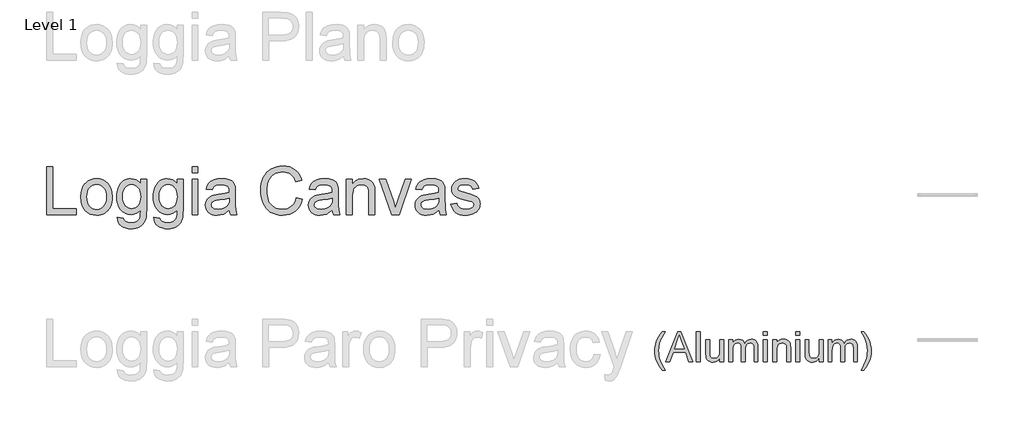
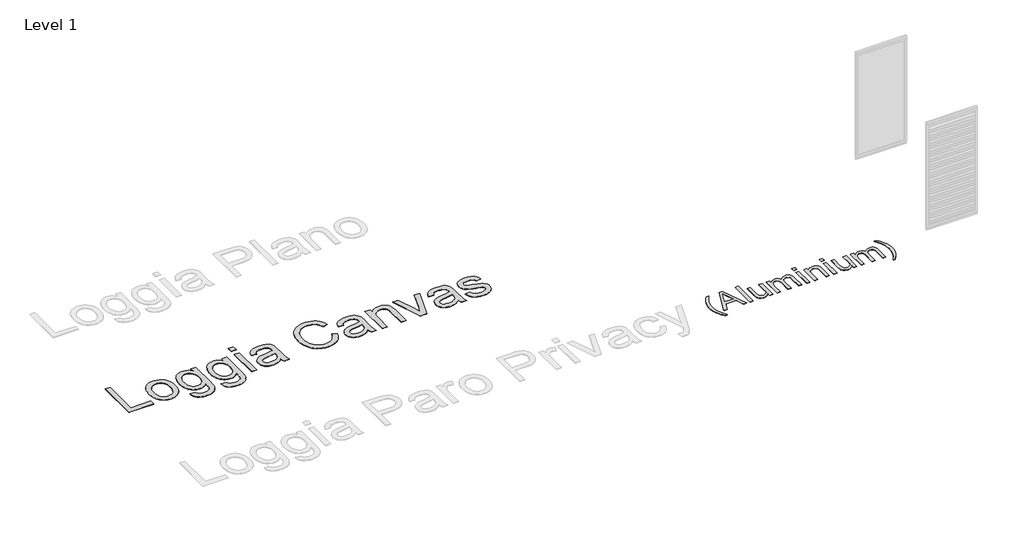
# One storey, part 30 of 69: 2 proxies.
"""IFC4 building model written with IfcOpenShell, lengths in millimetres."""

from ifc_helpers import new_model, si_unit, origin, origin_with_axes, place, context, project, spatial, polyline, outline, extrude, element, save

model = new_model("IFC4")

# Units and contexts
model_context = context("Model", 3, world=origin())
ifc_project = project(units=[si_unit("LENGTHUNIT", "METRE", prefix="MILLI")], contexts=[model_context])

# Site, building, storey
site = spatial("IfcSite", under=ifc_project)
building = spatial("IfcBuilding", under=site)
storey = spatial("IfcBuildingStorey", under=building, Name="Level 1", Elevation=0.0)

# Proxies
placement = place(None, origin())
element("IfcBuildingElementProxy", 1, Name="500mm Arial", ObjectType="500mm Arial", at=placement, inside=storey, context=model_context, shape_type="SweptSolid", body=[
    extrude(outline(polyline([(204273.402934, -24410.2759142), (204248.0573974, -24377.4807672), (204224.7505402, -24342.0031472), (204184.2528639, -24263.0004888), (204168.318975, -24220.4334763), (204156.9376257, -24177.1000429), (204150.1088162, -24133.0001887), (204147.8325464, -24088.1339137), (204149.5340006, -24048.7015624), (204154.6383633, -24010.1122739), (204163.1456344, -23972.3660484), (204175.055814, -23935.4628857), (204193.1586738, -23893.1411279), (204215.5841471, -23850.9113405), (204242.3322339, -23808.7735237), (204273.402934, -23766.7276773), (204320.4918294, -23766.7276773), (204261.7533375, -23866.1784433), (204241.7037688, -23913.389966), (204226.436666, -23962.5635261), (204214.5724717, -24025.3793767), (204210.6177402, -24088.5017957), (204212.3345228, -24128.7503853), (204217.4848708, -24168.9913106), (204226.068784, -24209.2245717), (204238.0862625, -24249.4501686), (204272.4219154, -24329.8783698), (204320.4918294, -24410.2759142), (204273.402934, -24410.2759142)])), origin_with_axes(), (0.0, 0.0, 1.0), 5.0),
    extrude(outline(polyline([(204332.6319353, -24269.009228), (204533.1276226, -23766.7276773), (204586.5931393, -23766.7276773), (204787.0888266, -24269.009228), (204720.7474402, -24269.009228), (204663.2352216, -24112.0462434), (204456.362913, -24112.0462434), (204398.9733217, -24269.009228), (204332.6319353, -24269.009228)]), holes=[polyline([(204479.4168513, -24049.2610496), (204640.3039106, -24049.2610496), (204595.0544252, -23925.7753265), (204559.860381, -23829.5128711), (204528.5904114, -23914.9841213), (204479.4168513, -24049.2610496)])]), origin_with_axes(), (0.0, 0.0, 1.0), 5.0),
    extrude(outline(polyline([(204846.3178279, -24269.009228), (204846.3178279, -23766.7276773), (204909.1030217, -23766.7276773), (204909.1030217, -24269.009228), (204846.3178279, -24269.009228)])), origin_with_axes(), (0.0, 0.0, 1.0), 5.0),
    extrude(outline(polyline([(205238.7252894, -24269.009228), (205238.7252894, -24205.6108975), (205216.0085762, -24236.7812324), (205189.5517294, -24259.0457573), (205159.3547489, -24272.4044723), (205125.4176349, -24276.8573773), (205094.837444, -24273.7303803), (205066.3725747, -24264.3493894), (205042.4909018, -24250.2472463), (205025.6603005, -24232.9567925), (205014.3326008, -24211.956862), (205006.9596324, -24186.7262885), (205003.2808125, -24128.3556786), (205003.2808125, -23900.1462142), (205066.0660063, -23900.1462142), (205066.0660063, -24098.8024916), (205069.8674536, -24162.8139588), (205079.0185182, -24184.1664429), (205094.6994883, -24200.3992359), (205115.8680314, -24210.6539466), (205141.4818153, -24214.0721834), (205168.5671272, -24210.5773045), (205193.9049996, -24200.0926676), (205214.7976313, -24183.5839631), (205228.5472209, -24162.0168811), (205236.1807723, -24132.4790226), (205238.7252894, -24092.0579884), (205238.7252894, -23900.1462142), (205301.5104832, -23900.1462142), (205301.5104832, -24269.009228), (205238.7252894, -24269.009228)])), origin_with_axes(), (0.0, 0.0, 1.0), 5.0),
    extrude(outline(polyline([(205387.8401248, -24269.009228), (205387.8401248, -23900.1462142), (205450.6253186, -23900.1462142), (205450.6253186, -23960.8467434), (205469.5099277, -23932.9643539), (205493.7901394, -23911.1213604), (205522.6382192, -23897.0038888), (205555.2264326, -23892.298065), (205590.1445653, -23897.0958593), (205618.1342538, -23911.4892424), (205639.0422138, -23934.5278523), (205652.7151613, -23965.2613274), (205675.6004871, -23933.3399001), (205701.7047803, -23910.5388806), (205731.028041, -23896.8582689), (205763.5702692, -23892.298065), (205788.7050401, -23894.1949565), (205810.7664635, -23899.8856311), (205829.7545394, -23909.3700888), (205845.6692678, -23922.6483296), (205858.2500656, -23939.8736376), (205867.2363497, -23961.199297), (205872.6281202, -23986.6253078), (205874.4253771, -24016.15167), (205874.4253771, -24269.009228), (205811.6401832, -24269.009228), (205811.6401832, -24043.129683), (205810.1839836, -24011.8137282), (205805.815385, -23990.7064987), (205797.6300106, -23976.251802), (205784.7234839, -23964.8934454), (205768.1228089, -23957.5358055), (205748.8549894, -23955.0832588), (205731.06253, -23956.6544215), (205714.8412332, -23961.3679096), (205700.1910992, -23969.223723), (205687.1121278, -23980.2218618), (205676.3554116, -23994.6842228), (205668.6720428, -24012.9327026), (205664.0620216, -24034.9673012), (205662.5253478, -24060.7880188), (205662.5253478, -24269.009228), (205599.740154, -24269.009228), (205599.740154, -24036.1399251), (205596.1073193, -24000.6393126), (205585.2088152, -23975.3167686), (205576.7820182, -23966.464608), (205566.0329662, -23960.1416363), (205537.5680968, -23955.0832588), (205513.3798556, -23958.4555104), (205491.0923381, -23968.5722653), (205472.6982383, -23985.1882688), (205460.1902505, -24008.0582661), (205453.0165516, -24039.7880882), (205450.6253186, -24082.9835658), (205450.6253186, -24269.009228), (205387.8401248, -24269.009228)])), origin_with_axes(), (0.0, 0.0, 1.0), 5.0),
    extrude(outline(polyline([(205968.6031678, -23829.5128711), (205968.6031678, -23766.7276773), (206031.3883617, -23766.7276773), (206031.3883617, -23829.5128711), (205968.6031678, -23829.5128711)])), origin_with_axes(), (0.0, 0.0, 1.0), 5.0),
    extrude(outline(polyline([(205968.6031678, -24269.009228), (205968.6031678, -23900.1462142), (206031.3883617, -23900.1462142), (206031.3883617, -24269.009228), (205968.6031678, -24269.009228)])), origin_with_axes(), (0.0, 0.0, 1.0), 5.0),
    extrude(outline(polyline([(206125.5661524, -24269.009228), (206125.5661524, -23900.1462142), (206188.3513463, -23900.1462142), (206188.3513463, -23951.6496935), (206210.1636829, -23925.683356), (206236.3599466, -23907.1359721), (206266.9401375, -23896.0075418), (206301.9042555, -23892.298065), (206332.8523283, -23895.2871062), (206361.1945703, -23904.2542298), (206384.8309885, -23918.0804615), (206401.6615898, -23935.6468267), (206413.0812601, -23956.9073404), (206420.4848852, -23981.8160171), (206423.7958232, -24042.5165463), (206423.7958232, -24269.009228), (206361.0106293, -24269.009228), (206361.0106293, -24050.9778322), (206359.2018762, -24018.5122462), (206353.7756168, -23995.427651), (206343.7661608, -23978.8882896), (206328.2078181, -23966.058405), (206308.2655483, -23957.8270454), (206285.104311, -23955.0832588), (206266.039593, -23956.6237647), (206248.3314399, -23961.2452822), (206231.9798516, -23968.9478115), (206216.9848282, -23979.7313525), (206204.4576799, -23994.8221785), (206195.5097168, -24015.4465629), (206190.1409389, -24041.6045056), (206188.3513463, -24073.2960066), (206188.3513463, -24269.009228), (206125.5661524, -24269.009228)])), origin_with_axes(), (0.0, 0.0, 1.0), 5.0),
    extrude(outline(polyline([(206510.1254647, -24269.009228), (206510.1254647, -23900.1462142), (206572.9106586, -23900.1462142), (206572.9106586, -24269.009228), (206510.1254647, -24269.009228)])), origin_with_axes(), (0.0, 0.0, 1.0), 5.0),
    extrude(outline(polyline([(206510.1254647, -23829.5128711), (206510.1254647, -23766.7276773), (206572.9106586, -23766.7276773), (206572.9106586, -23829.5128711), (206510.1254647, -23829.5128711)])), origin_with_axes(), (0.0, 0.0, 1.0), 5.0),
    extrude(outline(polyline([(206902.5329262, -24269.009228), (206902.5329262, -24205.6108975), (206879.816213, -24236.7812324), (206853.3593662, -24259.0457573), (206823.1623858, -24272.4044723), (206789.2252717, -24276.8573773), (206758.6450809, -24273.7303803), (206730.1802115, -24264.3493894), (206706.2985387, -24250.2472463), (206689.4679374, -24232.9567925), (206678.1402376, -24211.956862), (206670.7672693, -24186.7262885), (206667.0884493, -24128.3556786), (206667.0884493, -23900.1462142), (206729.8736432, -23900.1462142), (206729.8736432, -24098.8024916), (206733.6750905, -24162.8139588), (206742.8261551, -24184.1664429), (206758.5071251, -24200.3992359), (206779.6756683, -24210.6539466), (206805.2894522, -24214.0721834), (206832.3747641, -24210.5773045), (206857.7126365, -24200.0926676), (206878.6052681, -24183.5839631), (206892.3548577, -24162.0168811), (206899.9884091, -24132.4790226), (206902.5329262, -24092.0579884), (206902.5329262, -23900.1462142), (206965.3181201, -23900.1462142), (206965.3181201, -24269.009228), (206902.5329262, -24269.009228)])), origin_with_axes(), (0.0, 0.0, 1.0), 5.0),
    extrude(outline(polyline([(207051.6477616, -24269.009228), (207051.6477616, -23900.1462142), (207114.4329555, -23900.1462142), (207114.4329555, -23960.8467434), (207133.3175646, -23932.9643539), (207157.5977762, -23911.1213604), (207186.445856, -23897.0038888), (207219.0340694, -23892.298065), (207253.9522021, -23897.0958593), (207281.9418906, -23911.4892424), (207302.8498507, -23934.5278523), (207316.5227982, -23965.2613274), (207339.4081239, -23933.3399001), (207365.5124172, -23910.5388806), (207394.8356779, -23896.8582689), (207427.377906, -23892.298065), (207452.5126769, -23894.1949565), (207474.5741003, -23899.8856311), (207493.5621762, -23909.3700888), (207509.4769046, -23922.6483296), (207522.0577024, -23939.8736376), (207531.0439866, -23961.199297), (207536.4357571, -23986.6253078), (207538.2330139, -24016.15167), (207538.2330139, -24269.009228), (207475.4478201, -24269.009228), (207475.4478201, -24043.129683), (207473.9916205, -24011.8137282), (207469.6230218, -23990.7064987), (207461.4376474, -23976.251802), (207448.5311208, -23964.8934454), (207431.9304457, -23957.5358055), (207412.6626262, -23955.0832588), (207394.8701668, -23956.6544215), (207378.6488701, -23961.3679096), (207363.998736, -23969.223723), (207350.9197647, -23980.2218618), (207340.1630484, -23994.6842228), (207332.4796797, -24012.9327026), (207327.8696584, -24034.9673012), (207326.3329847, -24060.7880188), (207326.3329847, -24269.009228), (207263.5477908, -24269.009228), (207263.5477908, -24036.1399251), (207259.9149561, -24000.6393126), (207249.016452, -23975.3167686), (207240.5896551, -23966.464608), (207229.840603, -23960.1416363), (207201.3757337, -23955.0832588), (207177.1874925, -23958.4555104), (207154.8999749, -23968.5722653), (207136.5058752, -23985.1882688), (207123.9978873, -24008.0582661), (207116.8241884, -24039.7880882), (207114.4329555, -24082.9835658), (207114.4329555, -24269.009228), (207051.6477616, -24269.009228)])), origin_with_axes(), (0.0, 0.0, 1.0), 5.0),
    extrude(outline(polyline([(207648.1071031, -24410.2759142), (207601.0182078, -24410.2759142), (207649.0881218, -24329.8783698), (207683.4237747, -24249.4501686), (207695.4412532, -24209.2245717), (207704.0251664, -24168.9913106), (207709.1755143, -24128.7503853), (207710.892297, -24088.5017957), (207706.9375655, -24025.8392292), (207695.0733712, -23963.667172), (207680.0821799, -23914.4016415), (207660.1245816, -23867.159462), (207601.0182078, -23766.7276773), (207648.1071031, -23766.7276773), (207679.1778033, -23808.7735237), (207705.92589, -23850.9113405), (207728.3513633, -23893.1411279), (207746.4542232, -23935.4628857), (207758.3644028, -23972.3660484), (207766.8716739, -24010.1122739), (207771.9760366, -24048.7015624), (207773.6774908, -24088.1339137), (207771.3897247, -24133.0001887), (207764.5264262, -24177.1000429), (207753.0875954, -24220.4334763), (207737.0732323, -24263.0004888), (207696.5295708, -24342.0031472), (207648.1071031, -24410.2759142)])), origin_with_axes(), (0.0, 0.0, 1.0), 5.0),
])
element("IfcBuildingElementProxy", 2, Name="800mm Arial", ObjectType="800mm Arial", at=placement, inside=storey, context=model_context, shape_type="SweptSolid", body=[
    extrude(outline(polyline([(193965.6331768, -21803.9280072), (193965.6331768, -21004.5393088), (194065.556764, -21004.5393088), (194065.556764, -21704.0044199), (194465.2511132, -21704.0044199), (194465.2511132, -21803.9280072), (193965.6331768, -21803.9280072)])), origin_with_axes(), (0.0, 0.0, 1.0), 5.0),
    extrude(outline(polyline([(194540.1938037, -21510.4024695), (194545.5973864, -21434.3741834), (194552.3518647, -21400.302948), (194561.8081343, -21368.8603178), (194573.9661953, -21340.0462926), (194588.8260477, -21313.8608726), (194606.3876913, -21290.3040576), (194626.6511263, -21269.3758478), (194664.7323567, -21240.9430009), (194706.7656431, -21220.6338245), (194752.7509853, -21208.4483187), (194802.6883836, -21204.3864834), (194857.8159047, -21209.3326522), (194907.6618201, -21224.1711585), (194952.22613, -21248.9020024), (194991.5088342, -21283.5251839), (195023.5704979, -21326.8697234), (195046.4716863, -21377.7646413), (195060.2123993, -21436.2099378), (195064.792637, -21502.2056127), (195062.7678182, -21555.6925427), (195056.6933618, -21603.1538071), (195046.5692679, -21644.589406), (195032.3955364, -21679.9993393), (195014.349034, -21710.5850809), (194992.6066275, -21737.5481046), (194967.1683168, -21760.8884103), (194938.0341019, -21780.605998), (194906.3383693, -21796.2739482), (194873.2155054, -21807.4653412), (194838.6655101, -21814.180177), (194802.6883836, -21816.4184556), (194746.7558141, -21811.4905834), (194696.4463859, -21796.7069667), (194651.760099, -21772.0676056), (194612.6969535, -21737.5725), (194580.9768254, -21693.8071397), (194558.3195911, -21641.3570146), (194544.7252505, -21580.2221245), (194540.1938037, -21510.4024695)]), holes=[polyline([(194640.117391, -21510.2073062), (194643.0082467, -21558.6748812), (194651.6808139, -21600.6410802), (194666.1350926, -21636.1059032), (194686.3710828, -21665.0693502), (194710.9860485, -21687.5680144), (194738.5772539, -21703.6384888), (194769.1446989, -21713.2807734), (194802.6883836, -21716.4948683), (194836.0613004, -21713.2624769), (194866.5067684, -21703.5653026), (194894.0247876, -21687.4033454), (194918.6153579, -21664.7766053), (194938.8513481, -21635.5265123), (194953.3056267, -21599.4944961), (194961.9781939, -21556.6805567), (194964.8690497, -21507.0846941), (194961.9598974, -21460.1540298), (194953.2324405, -21419.2856242), (194938.6866791, -21384.4794771), (194918.322613, -21355.7355888), (194893.6405599, -21333.2369246), (194866.1408373, -21317.1664502), (194835.8234452, -21307.5241656), (194802.6883836, -21304.3100707), (194769.1446989, -21307.5119679), (194738.5772539, -21317.1176594), (194710.9860485, -21333.1271453), (194686.3710828, -21355.5404255), (194666.1350926, -21384.4184886), (194651.6808139, -21419.8223231), (194643.0082467, -21461.751929), (194640.117391, -21510.2073062)])]), origin_with_axes(), (0.0, 0.0, 1.0), 5.0),
    extrude(outline(polyline([(195152.2257759, -21853.8898008), (195252.1493631, -21866.3802492), (195256.3697686, -21883.2130801), (195263.1760871, -21897.6063703), (195272.5683189, -21909.5601197), (195284.5464637, -21919.0743285), (195303.9286146, -21928.8080959), (195326.5553547, -21935.7607869), (195381.5426022, -21941.3229397), (195412.7443278, -21939.7494359), (195440.1891607, -21935.0289247), (195463.877101, -21927.1614059), (195483.8081485, -21916.1468796), (195500.3970253, -21902.2902884), (195514.0584533, -21885.8965749), (195524.7924324, -21866.965739), (195532.5989626, -21845.4977808), (195538.014743, -21802.5130736), (195539.4296766, -21728.9853167), (195506.1787368, -21761.7727438), (195469.0733227, -21785.1923346), (195428.1134342, -21799.244089), (195383.2990715, -21803.9280072), (195328.5130861, -21798.4756337), (195280.2772675, -21782.1185133), (195258.6156707, -21769.8506729), (195238.5916157, -21754.8566459), (195203.4561307, -21716.6900315), (195175.5782793, -21670.8998525), (195155.6655283, -21620.767291), (195143.7178776, -21566.2923471), (195139.7353274, -21507.4750207), (195141.522291, -21466.3260678), (195146.8831817, -21426.7994095), (195155.8179995, -21388.8950458), (195168.3267445, -21352.6129767), (195184.2203522, -21319.1607748), (195203.3097582, -21289.7460127), (195225.5949626, -21264.3686905), (195251.0759652, -21243.0288082), (195279.3441432, -21226.1227911), (195309.9908733, -21214.0470646), (195343.0161556, -21206.8016287), (195378.4199901, -21204.3864834), (195425.1493923, -21209.8510546), (195467.5608074, -21226.2447681), (195505.6542356, -21253.567624), (195539.4296766, -21291.8196223), (195539.4296766, -21216.8769318), (195639.3532639, -21216.8769318), (195639.3532639, -21723.7159088), (195637.6455854, -21787.2232522), (195632.5225499, -21840.7406764), (195623.9841575, -21884.2681815), (195612.030408, -21917.8057673), (195596.3746555, -21944.8541749), (195576.730254, -21968.9141451), (195553.0972034, -21989.9856779), (195525.4755038, -22008.0687734), (195494.1457023, -22022.5840406), (195459.3883461, -22032.9520886), (195421.2034352, -22039.1729174), (195379.5909696, -22041.246527), (195330.6354865, -22038.325177), (195286.6200733, -22029.561127), (195247.5447301, -22014.954377), (195213.4094567, -21994.5049271), (195185.8365479, -21968.1883817), (195166.4482982, -21935.9803456), (195155.2447075, -21897.8808186), (195152.2257759, -21853.8898008)]), holes=[polyline([(195239.6589147, -21500.6443067), (195242.324113, -21550.0511048), (195250.3197076, -21592.297851), (195263.6456987, -21627.3845452), (195282.3020863, -21655.3111874), (195304.983716, -21676.6144766), (195330.3854336, -21691.8311118), (195358.5072391, -21700.9610928), (195389.3491324, -21704.0044199), (195419.8860832, -21700.9793894), (195447.8737139, -21691.904298), (195473.3120246, -21676.7791456), (195496.2010153, -21655.6039323), (195515.1135546, -21627.9517384), (195528.6225113, -21593.3956443), (195536.7278853, -21551.93565), (195539.4296766, -21503.5717555), (195536.6486002, -21457.226581), (195528.305371, -21416.9436651), (195514.399989, -21382.7230078), (195494.9324541, -21354.5646092), (195471.5494565, -21332.5782486), (195445.897686, -21316.8737053), (195417.9771426, -21307.4509794), (195387.7878264, -21304.3100707), (195358.1047148, -21307.4021886), (195330.7269693, -21316.6785421), (195305.6545897, -21332.1391313), (195282.887576, -21353.7839562), (195263.9750367, -21381.5154352), (195250.4660801, -21415.2359866), (195242.3607061, -21454.9456104), (195239.6589147, -21500.6443067)])]), origin_with_axes(), (0.0, 0.0, 1.0), 5.0),
    extrude(outline(polyline([(195764.257748, -21853.8898008), (195864.1813353, -21866.3802492), (195868.4017407, -21883.2130801), (195875.2080593, -21897.6063703), (195884.600291, -21909.5601197), (195896.5784359, -21919.0743285), (195915.9605868, -21928.8080959), (195938.5873268, -21935.7607869), (195993.5745743, -21941.3229397), (196024.7763, -21939.7494359), (196052.2211329, -21935.0289247), (196075.9090731, -21927.1614059), (196095.8401207, -21916.1468796), (196112.4289975, -21902.2902884), (196126.0904254, -21885.8965749), (196136.8244046, -21866.965739), (196144.6309348, -21845.4977808), (196150.0467152, -21802.5130736), (196151.4616488, -21728.9853167), (196118.210709, -21761.7727438), (196081.1052948, -21785.1923346), (196040.1454064, -21799.244089), (195995.3310436, -21803.9280072), (195940.5450582, -21798.4756337), (195892.3092397, -21782.1185133), (195870.6476429, -21769.8506729), (195850.6235878, -21754.8566459), (195815.4881028, -21716.6900315), (195787.6102514, -21670.8998525), (195767.6975004, -21620.767291), (195755.7498498, -21566.2923471), (195751.7672996, -21507.4750207), (195753.5542632, -21466.3260678), (195758.9151539, -21426.7994095), (195767.8499717, -21388.8950458), (195780.3587167, -21352.6129767), (195796.2523244, -21319.1607748), (195815.3417304, -21289.7460127), (195837.6269347, -21264.3686905), (195863.1079374, -21243.0288082), (195891.3761153, -21226.1227911), (195922.0228454, -21214.0470646), (195955.0481277, -21206.8016287), (195990.4519622, -21204.3864834), (196037.1813644, -21209.8510546), (196079.5927796, -21226.2447681), (196117.6862077, -21253.567624), (196151.4616488, -21291.8196223), (196151.4616488, -21216.8769318), (196251.3852361, -21216.8769318), (196251.3852361, -21723.7159088), (196249.6775576, -21787.2232522), (196244.5545221, -21840.7406764), (196236.0161296, -21884.2681815), (196224.0623802, -21917.8057673), (196208.4066277, -21944.8541749), (196188.7622262, -21968.9141451), (196165.1291756, -21989.9856779), (196137.5074759, -22008.0687734), (196106.1776744, -22022.5840406), (196071.4203182, -22032.9520886), (196033.2354073, -22039.1729174), (195991.6229418, -22041.246527), (195942.6674587, -22038.325177), (195898.6520455, -22029.561127), (195859.5767022, -22014.954377), (195825.4414289, -21994.5049271), (195797.8685201, -21968.1883817), (195778.4802703, -21935.9803456), (195767.2766796, -21897.8808186), (195764.257748, -21853.8898008)]), holes=[polyline([(195851.6908869, -21500.6443067), (195854.3560851, -21550.0511048), (195862.3516798, -21592.297851), (195875.6776709, -21627.3845452), (195894.3340584, -21655.3111874), (195917.0156881, -21676.6144766), (195942.4174057, -21691.8311118), (195970.5392112, -21700.9610928), (196001.3811046, -21704.0044199), (196031.9180554, -21700.9793894), (196059.9056861, -21691.904298), (196085.3439968, -21676.7791456), (196108.2329875, -21655.6039323), (196127.1455268, -21627.9517384), (196140.6544835, -21593.3956443), (196148.7598575, -21551.93565), (196151.4616488, -21503.5717555), (196148.6805724, -21457.226581), (196140.3373432, -21416.9436651), (196126.4319611, -21382.7230078), (196106.9644263, -21354.5646092), (196083.5814287, -21332.5782486), (196057.9296581, -21316.8737053), (196030.0091148, -21307.4509794), (195999.8197985, -21304.3100707), (195970.136687, -21307.4021886), (195942.7589414, -21316.6785421), (195917.6865618, -21332.1391313), (195894.9195482, -21353.7839562), (195876.0070089, -21381.5154352), (195862.4980522, -21415.2359866), (195854.3926782, -21454.9456104), (195851.6908869, -21500.6443067)])]), origin_with_axes(), (0.0, 0.0, 1.0), 5.0),
    extrude(outline(polyline([(196401.270617, -21104.4628961), (196401.270617, -21004.5393088), (196501.1942043, -21004.5393088), (196501.1942043, -21104.4628961), (196401.270617, -21104.4628961)])), origin_with_axes(), (0.0, 0.0, 1.0), 5.0),
    extrude(outline(polyline([(196401.270617, -21803.9280072), (196401.270617, -21216.8769318), (196501.1942043, -21216.8769318), (196501.1942043, -21803.9280072), (196401.270617, -21803.9280072)])), origin_with_axes(), (0.0, 0.0, 1.0), 5.0),
    extrude(outline(polyline([(197025.7930376, -21728.9853167), (196978.051226, -21769.9208097), (196953.6497201, -21785.0825552), (196928.8944808, -21796.7069667), (196877.2006132, -21811.4905834), (196821.8474346, -21816.4184556), (196777.356311, -21813.4544136), (196738.3419563, -21804.5622878), (196704.8043704, -21789.742078), (196676.7435535, -21768.9937843), (196654.586425, -21743.6347586), (196638.7599047, -21714.9823531), (196629.2639925, -21683.0365675), (196626.0986884, -21647.797402), (196630.8801882, -21606.3740008), (196645.2246876, -21568.7562832), (196667.3513218, -21536.5543459), (196695.4792261, -21511.3782858), (196728.5350026, -21492.3498683), (196765.4452535, -21478.5908587), (196851.9025761, -21463.563288), (196954.0705409, -21447.7550642), (197025.2075478, -21429.2145548), (197025.7930376, -21406.9659436), (197024.0731614, -21382.7413044), (197018.9135328, -21362.3711395), (197010.3141518, -21345.8554489), (196998.2750184, -21333.1942327), (196977.4657362, -21320.5574118), (196952.1189083, -21311.5311112), (196922.2345347, -21306.1153308), (196887.8126153, -21304.3100707), (196828.2878221, -21309.1159659), (196805.2585578, -21315.1233349), (196786.7180485, -21323.5336515), (196771.4831168, -21335.0055916), (196758.3705855, -21350.1978314), (196747.3804546, -21369.1103707), (196738.5127241, -21391.7432096), (196638.5891368, -21379.2527612), (196655.9342713, -21324.6070494), (196667.8087356, -21301.6753667), (196681.8177981, -21281.671133), (196698.5652451, -21264.1918238), (196718.6548628, -21248.8349151), (196742.0866513, -21235.6004067), (196768.8606105, -21224.4882988), (196830.2638501, -21209.4119373), (196900.6933902, -21204.3864834), (196968.2442724, -21208.8264475), (197021.7921908, -21222.1463398), (197062.1665895, -21242.1749689), (197090.1969122, -21266.7411438), (197108.7862124, -21297.1134256), (197120.8375435, -21334.5603755), (197124.4968545, -21369.1042718), (197125.7166249, -21421.9935143), (197125.7166249, -21546.3125087), (197126.9851861, -21654.6037206), (197130.7908696, -21719.9102253), (197138.3046549, -21762.8217463), (197150.6975217, -21803.9280072), (197050.7739344, -21803.9280072), (197034.7705474, -21769.1889475), (197025.7930376, -21728.9853167)]), holes=[polyline([(197025.7930376, -21529.1381421), (196958.6568774, -21545.7758097), (196864.5881878, -21559.7787734), (196812.7479478, -21567.4389312), (196778.6187733, -21575.9773237), (196756.2481851, -21587.0528385), (196739.6837037, -21602.3243633), (196729.4376327, -21620.6209186), (196726.0222757, -21640.7715248), (196727.8824255, -21656.2992014), (196733.4628749, -21670.4851306), (196742.7636238, -21683.3293124), (196755.7846723, -21694.8317468), (196772.4040434, -21704.3093625), (196792.4997599, -21711.0790879), (196843.1202296, -21716.4948683), (196896.7901251, -21710.5179936), (196921.2831138, -21703.0469002), (196944.2147964, -21692.5873694), (196982.6619579, -21666.1671435), (197009.3993241, -21634.7214638), (197021.2554919, -21602.3243633), (197025.2075478, -21557.4368143), (197025.7930376, -21529.1381421)])]), origin_with_axes(), (0.0, 0.0, 1.0), 5.0),
    extrude(outline(polyline([(198149.9333946, -21519.7703058), (198249.8569819, -21545.5318557), (198230.0845045, -21607.6730563), (198203.7496626, -21661.9711335), (198170.8524562, -21708.4260874), (198131.3928853, -21747.0379179), (198086.2613822, -21777.3919031), (198036.3483794, -21799.0733212), (197981.6538768, -21812.082172), (197922.1778744, -21816.4184556), (197861.2442464, -21813.1372733), (197806.2752955, -21803.2937266), (197757.2710216, -21786.8878153), (197714.2314247, -21763.9195396), (197676.5649162, -21734.7304351), (197643.6799075, -21699.6620374), (197615.5763985, -21658.7143467), (197592.2543894, -21611.8873628), (197573.9395375, -21561.2059047), (197560.8575005, -21508.694791), (197553.0082783, -21454.3540218), (197550.3918709, -21398.1835971), (197553.349814, -21337.9147439), (197562.2236433, -21281.6223421), (197577.0133588, -21229.3063917), (197597.7189606, -21180.9668926), (197623.8769358, -21137.4027945), (197655.0237717, -21099.4130469), (197691.1594684, -21066.9976497), (197732.2840259, -21040.1566031), (197777.000807, -21019.1094657), (197823.9131748, -21004.0757961), (197873.0211292, -20995.0555943), (197924.3246702, -20992.0488604), (197981.4770101, -20995.9399278), (198033.8844433, -21007.6131301), (198081.5469698, -21027.0684672), (198124.4645897, -21054.3059392), (198161.9298361, -21088.6058815), (198193.2352422, -21129.2486297), (198218.380808, -21176.2341837), (198237.3665335, -21229.5625435), (198137.4429462, -21253.3724608), (198121.7079087, -21214.0775589), (198102.8014682, -21180.5033799), (198080.7236248, -21152.6499239), (198055.4743785, -21130.5171909), (198026.9073569, -21113.6538657), (197994.8761874, -21101.6086335), (197959.3808701, -21094.3814942), (197920.4214051, -21091.9724477), (197875.5948446, -21094.6437448), (197834.5983631, -21102.657636), (197797.4319604, -21116.0141214), (197764.0956367, -21134.7132009), (197735.0102126, -21157.913233), (197710.596509, -21184.7725761), (197690.8545258, -21215.2912304), (197675.7842631, -21249.4691957), (197664.641661, -21285.7573636), (197656.6826594, -21322.606626), (197651.9072585, -21360.0169827), (197650.3154582, -21397.9884338), (197652.2000034, -21445.70585), (197657.853639, -21490.3006541), (197667.2763649, -21531.7728461), (197680.4681813, -21570.122426), (197697.6425479, -21604.5870373), (197719.0129244, -21634.4043236), (197744.579311, -21659.5742848), (197774.3417076, -21680.096921), (197806.8546864, -21696.0210229), (197840.6728194, -21707.3953815), (197875.7961067, -21714.2199966), (197912.2245483, -21716.4948683), (197955.6666694, -21713.3966516), (197995.632445, -21704.1020015), (198032.1218751, -21688.610918), (198065.1349597, -21666.9234012), (198093.8910458, -21639.1370325), (198117.6094803, -21605.3493938), (198136.2902632, -21565.5604848), (198149.9333946, -21519.7703058)])), origin_with_axes(), (0.0, 0.0, 1.0), 5.0),
    extrude(outline(polyline([(198749.4749184, -21728.9853167), (198701.7331068, -21769.9208097), (198677.3316009, -21785.0825552), (198652.5763616, -21796.7069667), (198600.882494, -21811.4905834), (198545.5293154, -21816.4184556), (198501.0381918, -21813.4544136), (198462.0238371, -21804.5622878), (198428.4862512, -21789.742078), (198400.4254343, -21768.9937843), (198378.2683058, -21743.6347586), (198362.4417855, -21714.9823531), (198352.9458733, -21683.0365675), (198349.7805692, -21647.797402), (198354.562069, -21606.3740008), (198368.9065684, -21568.7562832), (198391.0332026, -21536.5543459), (198419.1611069, -21511.3782858), (198452.2168834, -21492.3498683), (198489.1271343, -21478.5908587), (198575.5844569, -21463.563288), (198677.7524217, -21447.7550642), (198748.8894286, -21429.2145548), (198749.4749184, -21406.9659436), (198747.7550422, -21382.7413044), (198742.5954136, -21362.3711395), (198733.9960326, -21345.8554489), (198721.9568992, -21333.1942327), (198701.147617, -21320.5574118), (198675.8007891, -21311.5311112), (198645.9164155, -21306.1153308), (198611.4944961, -21304.3100707), (198551.9697029, -21309.1159659), (198528.9404386, -21315.1233349), (198510.3999293, -21323.5336515), (198495.1649976, -21335.0055916), (198482.0524663, -21350.1978314), (198471.0623354, -21369.1103707), (198462.1946049, -21391.7432096), (198362.2710176, -21379.2527612), (198379.6161521, -21324.6070494), (198391.4906164, -21301.6753667), (198405.4996789, -21281.671133), (198422.2471259, -21264.1918238), (198442.3367436, -21248.8349151), (198465.7685321, -21235.6004067), (198492.5424913, -21224.4882988), (198553.9457309, -21209.4119373), (198624.375271, -21204.3864834), (198691.9261532, -21208.8264475), (198745.4740716, -21222.1463398), (198785.8484703, -21242.1749689), (198813.878793, -21266.7411438), (198832.4680932, -21297.1134256), (198844.5194243, -21334.5603755), (198848.1787353, -21369.1042718), (198849.3985057, -21421.9935143), (198849.3985057, -21546.3125087), (198850.6670669, -21654.6037206), (198854.4727504, -21719.9102253), (198861.9865357, -21762.8217463), (198874.3794025, -21803.9280072), (198774.4558152, -21803.9280072), (198758.4524282, -21769.1889475), (198749.4749184, -21728.9853167)]), holes=[polyline([(198749.4749184, -21529.1381421), (198682.3387582, -21545.7758097), (198588.2700686, -21559.7787734), (198536.4298286, -21567.4389312), (198502.3006541, -21575.9773237), (198479.9300659, -21587.0528385), (198463.3655845, -21602.3243633), (198453.1195135, -21620.6209186), (198449.7041565, -21640.7715248), (198451.5643063, -21656.2992014), (198457.1447557, -21670.4851306), (198466.4455046, -21683.3293124), (198479.4665531, -21694.8317468), (198496.0859242, -21704.3093625), (198516.1816407, -21711.0790879), (198566.8021104, -21716.4948683), (198620.4720059, -21710.5179936), (198644.9649946, -21703.0469002), (198667.8966772, -21692.5873694), (198706.3438387, -21666.1671435), (198733.0812049, -21634.7214638), (198744.9373727, -21602.3243633), (198748.8894286, -21557.4368143), (198749.4749184, -21529.1381421)])]), origin_with_axes(), (0.0, 0.0, 1.0), 5.0),
    extrude(outline(polyline([(198986.7934382, -21803.9280072), (198986.7934382, -21216.8769318), (199086.7170255, -21216.8769318), (199086.7170255, -21298.8454995), (199103.2022218, -21276.7066676), (199121.4316897, -21257.51968), (199141.4054293, -21241.2845366), (199163.1234404, -21228.0012374), (199186.5857231, -21217.6697826), (199211.7922775, -21210.2901719), (199267.438201, -21204.3864834), (199316.6925278, -21209.1435878), (199361.7996354, -21223.4149009), (199399.4173531, -21245.4195581), (199426.2035101, -21273.3766946), (199444.3780883, -21307.2131241), (199456.1610699, -21346.8556606), (199460.1131259, -21384.7661232), (199461.4304779, -21443.4614725), (199461.4304779, -21803.9280072), (199361.5068906, -21803.9280072), (199361.5068906, -21456.9277372), (199358.6282325, -21405.2582651), (199349.9922584, -21368.5187821), (199334.0620576, -21342.1961379), (199309.3007195, -21321.7771822), (199277.5622949, -21308.6768486), (199240.7008348, -21304.3100707), (199210.3590473, -21306.7618091), (199182.1762533, -21314.1170243), (199156.1524528, -21326.3757164), (199132.2876459, -21343.5378853), (199112.3504995, -21367.5551635), (199098.1096806, -21400.3791837), (199089.5651893, -21442.0099458), (199086.7170255, -21492.4474499), (199086.7170255, -21803.9280072), (198986.7934382, -21803.9280072)])), origin_with_axes(), (0.0, 0.0, 1.0), 5.0),
    extrude(outline(polyline([(199742.8558936, -21803.9280072), (199536.3731683, -21216.8769318), (199642.1516533, -21216.8769318), (199767.2513007, -21568.5611199), (199804.9178092, -21686.8300533), (199841.8036646, -21575.1966706), (199967.683965, -21216.8769318), (200073.46245, -21216.8769318), (199869.5168471, -21803.9280072), (199742.8558936, -21803.9280072)])), origin_with_axes(), (0.0, 0.0, 1.0), 5.0),
    extrude(outline(polyline([(200535.6090413, -21728.9853167), (200487.8672296, -21769.9208097), (200463.4657237, -21785.0825552), (200438.7104844, -21796.7069667), (200387.0166169, -21811.4905834), (200331.6634383, -21816.4184556), (200287.1723147, -21813.4544136), (200248.1579599, -21804.5622878), (200214.6203741, -21789.742078), (200186.5595571, -21768.9937843), (200164.4024287, -21743.6347586), (200148.5759083, -21714.9823531), (200139.0799961, -21683.0365675), (200135.9146921, -21647.797402), (200140.6961919, -21606.3740008), (200155.0406912, -21568.7562832), (200177.1673254, -21536.5543459), (200205.2952297, -21511.3782858), (200238.3510063, -21492.3498683), (200275.2612572, -21478.5908587), (200361.7185798, -21463.563288), (200463.8865445, -21447.7550642), (200535.0235515, -21429.2145548), (200535.6090413, -21406.9659436), (200533.8891651, -21382.7413044), (200528.7295365, -21362.3711395), (200520.1301555, -21345.8554489), (200508.0910221, -21333.1942327), (200487.2817399, -21320.5574118), (200461.934912, -21311.5311112), (200432.0505383, -21306.1153308), (200397.628619, -21304.3100707), (200338.1038257, -21309.1159659), (200315.0745615, -21315.1233349), (200296.5340521, -21323.5336515), (200281.2991204, -21335.0055916), (200268.1865891, -21350.1978314), (200257.1964583, -21369.1103707), (200248.3287278, -21391.7432096), (200148.4051405, -21379.2527612), (200165.7502749, -21324.6070494), (200177.6247393, -21301.6753667), (200191.6338018, -21281.671133), (200208.3812487, -21264.1918238), (200228.4708664, -21248.8349151), (200251.9026549, -21235.6004067), (200278.6766142, -21224.4882988), (200340.0798537, -21209.4119373), (200410.5093939, -21204.3864834), (200478.060276, -21208.8264475), (200531.6081945, -21222.1463398), (200571.9825932, -21242.1749689), (200600.0129159, -21266.7411438), (200618.6022161, -21297.1134256), (200630.6535471, -21334.5603755), (200634.3128582, -21369.1042718), (200635.5326285, -21421.9935143), (200635.5326285, -21546.3125087), (200636.8011897, -21654.6037206), (200640.6068732, -21719.9102253), (200648.1206586, -21762.8217463), (200660.5135254, -21803.9280072), (200560.5899381, -21803.9280072), (200544.586551, -21769.1889475), (200535.6090413, -21728.9853167)]), holes=[polyline([(200535.6090413, -21529.1381421), (200468.472881, -21545.7758097), (200374.4041914, -21559.7787734), (200322.5639515, -21567.4389312), (200288.434777, -21575.9773237), (200266.0641887, -21587.0528385), (200249.4997073, -21602.3243633), (200239.2536364, -21620.6209186), (200235.8382794, -21640.7715248), (200237.6984292, -21656.2992014), (200243.2788785, -21670.4851306), (200252.5796275, -21683.3293124), (200265.600676, -21694.8317468), (200282.220047, -21704.3093625), (200302.3157636, -21711.0790879), (200352.9362332, -21716.4948683), (200406.6061288, -21710.5179936), (200431.0991174, -21703.0469002), (200454.0308001, -21692.5873694), (200492.4779616, -21666.1671435), (200519.2153277, -21634.7214638), (200531.0714955, -21602.3243633), (200535.0235515, -21557.4368143), (200535.6090413, -21529.1381421)])]), origin_with_axes(), (0.0, 0.0, 1.0), 5.0),
    extrude(outline(polyline([(200735.4562158, -21629.0617294), (200835.3798031, -21616.571281), (200841.4176664, -21639.3565912), (200851.1392361, -21659.3120342), (200864.5445123, -21676.4376099), (200881.6334949, -21690.7333184), (200902.4549748, -21702.0039965), (200927.0577428, -21710.0544808), (200955.4417989, -21714.8847714), (200987.6071431, -21716.4948683), (201019.7358942, -21715.0189462), (201047.4246812, -21710.5911798), (201070.6735042, -21703.2115691), (201089.482363, -21692.8801143), (201103.9976302, -21680.5604337), (201114.3656782, -21667.216146), (201120.586507, -21652.8472513), (201122.6601166, -21637.4537494), (201120.5743093, -21623.9630893), (201114.3168874, -21611.9849445), (201103.8878509, -21601.5193148), (201089.2871997, -21592.5662005), (201051.8646453, -21579.8805888), (200986.4361636, -21564.072365), (200895.246132, -21537.70093), (200835.9652929, -21515.1839693), (200797.8840625, -21490.6177944), (200782.7772067, -21475.3523684), (200770.2928571, -21458.0987168), (200753.5332125, -21419.7003461), (200747.9466643, -21377.4962919), (200752.4354191, -21338.7807809), (200765.9016838, -21303.0415095), (200787.125688, -21271.6934115), (200814.8876612, -21246.1514203), (200842.4788666, -21230.074847), (200878.4133012, -21216.5841869), (200919.9586794, -21207.4359093), (200964.3827156, -21204.3864834), (201029.4208708, -21209.2899602), (201085.9694244, -21224.0003907), (201131.4424631, -21247.0784458), (201149.055947, -21261.2155841), (201163.2540739, -21277.0847964), (201184.3317056, -21316.2394248), (201197.6028071, -21366.7623128), (201097.6792198, -21379.2527612), (201092.9160165, -21362.5602039), (201085.0667943, -21347.8070815), (201074.1315531, -21334.9933939), (201060.1102929, -21324.1191412), (201042.9420252, -21315.4526729), (201022.5657615, -21309.2623383), (200972.1892459, -21304.3100707), (200914.8112485, -21309.0427797), (200893.2944995, -21314.9586659), (200876.5592502, -21323.2409066), (200855.0425012, -21343.7330485), (200849.663314, -21355.150099), (200847.8702515, -21367.3478025), (200850.8464912, -21382.716909), (200859.7752102, -21396.4271277), (200875.046735, -21408.6736221), (200897.0513922, -21418.4805757), (200983.1183883, -21439.7533707), (201071.4053664, -21465.8564562), (201129.7835755, -21486.7877155), (201168.5234819, -21509.2802808), (201197.895552, -21540.0672845), (201208.6966184, -21558.5955961), (201216.4116659, -21579.2463082), (201221.0406944, -21602.0194207), (201222.5837039, -21626.9149336), (201220.7723449, -21651.9202258), (201215.338268, -21676.1936558), (201206.2814731, -21699.7352236), (201193.6019603, -21722.5449292), (201177.5070905, -21743.7140437), (201158.2042247, -21762.3338381), (201135.6933628, -21778.4043125), (201109.9745049, -21791.9254669), (201081.749019, -21802.6411494), (201051.7182729, -21810.2952084), (201019.8822667, -21814.8876438), (200986.2410004, -21816.4184556), (200932.4613255, -21813.4666113), (200885.4879692, -21804.6110786), (200845.3209315, -21789.8518573), (200811.9602124, -21769.1889475), (200784.7105427, -21742.7199309), (200762.8766534, -21710.542389), (200746.4585444, -21672.6563218), (200735.4562158, -21629.0617294)])), origin_with_axes(), (0.0, 0.0, 1.0), 5.0),
])

save(model, "model.ifc")
